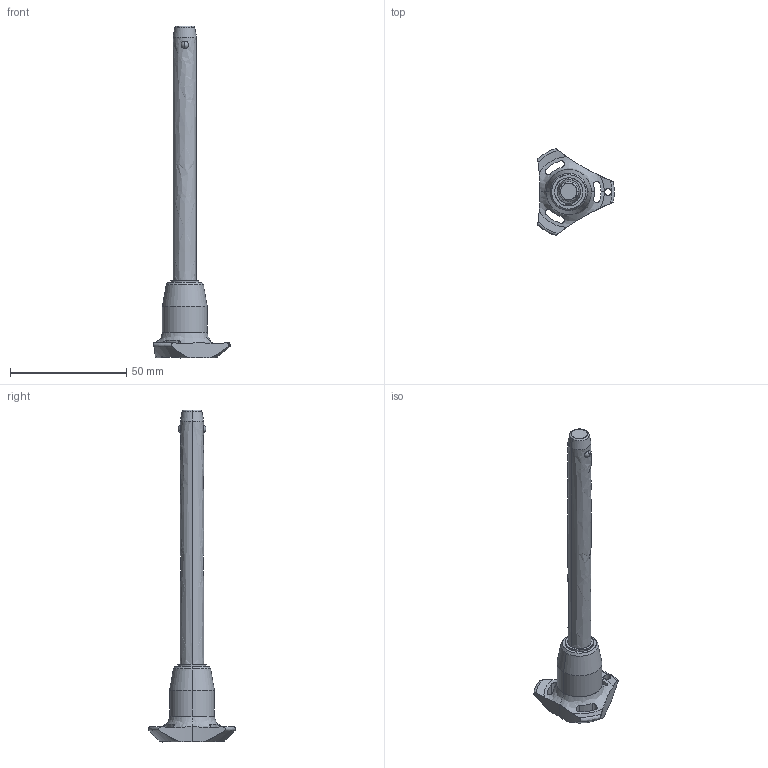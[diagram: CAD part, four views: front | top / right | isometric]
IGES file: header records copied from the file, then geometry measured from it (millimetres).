
Start section: SolidWorks IGES file using analytic representation for surfaces
Global section: file name: C:\Users\ianosborn\Desktop\QR1734_v2\QR1734_v2_20251113_IGES\QR1734.M10-100-S.igs; native system: SolidWorks 2019; preprocessor: SolidWorks 2019; author: IanOsborn; date: 251112.142822; units: millimetre
Bounding box: 33 x 37.51 x 142.9 mm (x, y, z)
Surface area: 7306 mm2 (no closed solid volume)
Topology: 0 solids, 0 shells, 65 faces, 1282 edges, 1278 vertices
Faces by surface type: revolution 50, bspline 15
